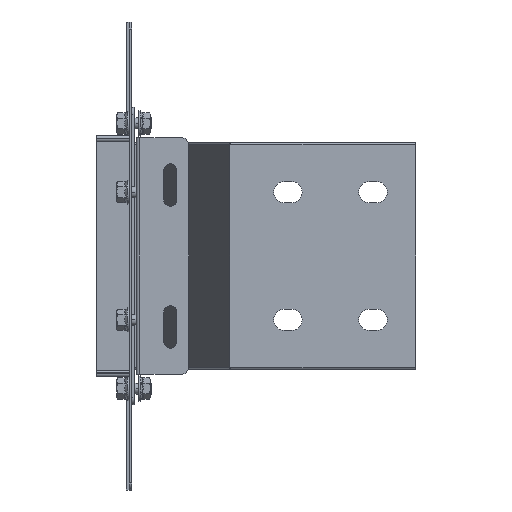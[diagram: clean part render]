
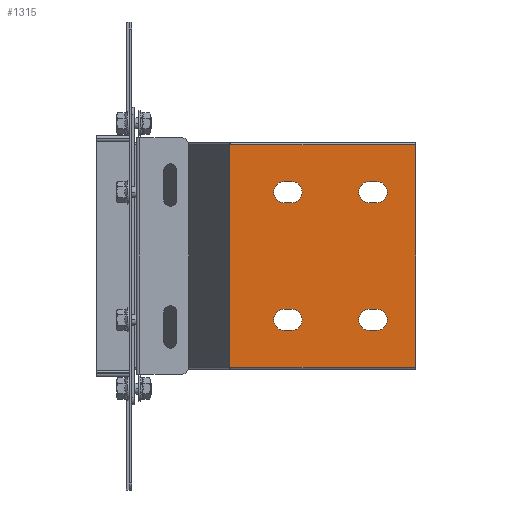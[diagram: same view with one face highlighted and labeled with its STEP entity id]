
A CAD part, front view. The second image highlights one B-rep face of the part: STEP entity #1315.
In plain terms, the highlighted planar face has unit normal (0, -1, 0).
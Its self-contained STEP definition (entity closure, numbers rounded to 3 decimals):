
#1143=AXIS2_PLACEMENT_3D('Plane Axis2P3D',#1140,#1141,#1142) ;
#1181=AXIS2_PLACEMENT_3D('Circle Axis2P3D',#1179,#1180,$) ;
#1197=AXIS2_PLACEMENT_3D('Circle Axis2P3D',#1195,#1196,$) ;
#1215=AXIS2_PLACEMENT_3D('Circle Axis2P3D',#1213,#1214,$) ;
#1231=AXIS2_PLACEMENT_3D('Circle Axis2P3D',#1229,#1230,$) ;
#1249=AXIS2_PLACEMENT_3D('Circle Axis2P3D',#1247,#1248,$) ;
#1265=AXIS2_PLACEMENT_3D('Circle Axis2P3D',#1263,#1264,$) ;
#1292=AXIS2_PLACEMENT_3D('Circle Axis2P3D',#1290,#1291,$) ;
#1306=AXIS2_PLACEMENT_3D('Circle Axis2P3D',#1304,#1305,$) ;
#1140=CARTESIAN_POINT('Axis2P3D Location',(200.,-151.625,-78.375)) ;
#1145=CARTESIAN_POINT('Line Origine',(134.458,-151.625,-78.375)) ;
#1149=CARTESIAN_POINT('Vertex',(200.,-151.625,-78.375)) ;
#1151=CARTESIAN_POINT('Vertex',(68.917,-151.625,-78.375)) ;
#1154=CARTESIAN_POINT('Line Origine',(200.,-151.625,0.)) ;
#1158=CARTESIAN_POINT('Vertex',(200.,-151.625,78.375)) ;
#1161=CARTESIAN_POINT('Line Origine',(134.458,-151.625,78.375)) ;
#1165=CARTESIAN_POINT('Vertex',(68.917,-151.625,78.375)) ;
#1168=CARTESIAN_POINT('Line Origine',(68.917,-151.625,0.)) ;
#1179=CARTESIAN_POINT('Axis2P3D Location',(112.5,-151.625,45.)) ;
#1183=CARTESIAN_POINT('Vertex',(112.5,-151.625,37.5)) ;
#1185=CARTESIAN_POINT('Vertex',(112.5,-151.625,52.5)) ;
#1188=CARTESIAN_POINT('Line Origine',(110.,-151.625,37.5)) ;
#1192=CARTESIAN_POINT('Vertex',(107.5,-151.625,37.5)) ;
#1195=CARTESIAN_POINT('Axis2P3D Location',(107.5,-151.625,45.)) ;
#1199=CARTESIAN_POINT('Vertex',(107.5,-151.625,52.5)) ;
#1202=CARTESIAN_POINT('Line Origine',(110.,-151.625,52.5)) ;
#1213=CARTESIAN_POINT('Axis2P3D Location',(172.5,-151.625,45.)) ;
#1217=CARTESIAN_POINT('Vertex',(172.5,-151.625,37.5)) ;
#1219=CARTESIAN_POINT('Vertex',(172.5,-151.625,52.5)) ;
#1222=CARTESIAN_POINT('Line Origine',(170.,-151.625,37.5)) ;
#1226=CARTESIAN_POINT('Vertex',(167.5,-151.625,37.5)) ;
#1229=CARTESIAN_POINT('Axis2P3D Location',(167.5,-151.625,45.)) ;
#1233=CARTESIAN_POINT('Vertex',(167.5,-151.625,52.5)) ;
#1236=CARTESIAN_POINT('Line Origine',(170.,-151.625,52.5)) ;
#1247=CARTESIAN_POINT('Axis2P3D Location',(107.5,-151.625,-45.)) ;
#1251=CARTESIAN_POINT('Vertex',(107.5,-151.625,-37.5)) ;
#1253=CARTESIAN_POINT('Vertex',(107.5,-151.625,-52.5)) ;
#1256=CARTESIAN_POINT('Line Origine',(110.,-151.625,-37.5)) ;
#1260=CARTESIAN_POINT('Vertex',(112.5,-151.625,-37.5)) ;
#1263=CARTESIAN_POINT('Axis2P3D Location',(112.5,-151.625,-45.)) ;
#1267=CARTESIAN_POINT('Vertex',(112.5,-151.625,-52.5)) ;
#1270=CARTESIAN_POINT('Line Origine',(110.,-151.625,-52.5)) ;
#1281=CARTESIAN_POINT('Line Origine',(170.,-151.625,-37.5)) ;
#1285=CARTESIAN_POINT('Vertex',(172.5,-151.625,-37.5)) ;
#1287=CARTESIAN_POINT('Vertex',(167.5,-151.625,-37.5)) ;
#1290=CARTESIAN_POINT('Axis2P3D Location',(172.5,-151.625,-45.)) ;
#1294=CARTESIAN_POINT('Vertex',(172.5,-151.625,-52.5)) ;
#1297=CARTESIAN_POINT('Line Origine',(170.,-151.625,-52.5)) ;
#1301=CARTESIAN_POINT('Vertex',(167.5,-151.625,-52.5)) ;
#1304=CARTESIAN_POINT('Axis2P3D Location',(167.5,-151.625,-45.)) ;
#1141=DIRECTION('Axis2P3D Direction',(0.,-1.,0.)) ;
#1142=DIRECTION('Axis2P3D XDirection',(0.,0.,1.)) ;
#1146=DIRECTION('Vector Direction',(-1.,0.,0.)) ;
#1155=DIRECTION('Vector Direction',(0.,0.,1.)) ;
#1162=DIRECTION('Vector Direction',(-1.,0.,0.)) ;
#1169=DIRECTION('Vector Direction',(0.,0.,1.)) ;
#1180=DIRECTION('Axis2P3D Direction',(0.,-1.,0.)) ;
#1189=DIRECTION('Vector Direction',(-1.,0.,0.)) ;
#1196=DIRECTION('Axis2P3D Direction',(0.,-1.,0.)) ;
#1203=DIRECTION('Vector Direction',(1.,0.,0.)) ;
#1214=DIRECTION('Axis2P3D Direction',(0.,-1.,0.)) ;
#1223=DIRECTION('Vector Direction',(1.,0.,0.)) ;
#1230=DIRECTION('Axis2P3D Direction',(0.,-1.,0.)) ;
#1237=DIRECTION('Vector Direction',(-1.,0.,0.)) ;
#1248=DIRECTION('Axis2P3D Direction',(0.,-1.,0.)) ;
#1257=DIRECTION('Vector Direction',(-1.,0.,0.)) ;
#1264=DIRECTION('Axis2P3D Direction',(0.,-1.,0.)) ;
#1271=DIRECTION('Vector Direction',(1.,0.,0.)) ;
#1282=DIRECTION('Vector Direction',(1.,0.,0.)) ;
#1291=DIRECTION('Axis2P3D Direction',(0.,-1.,0.)) ;
#1298=DIRECTION('Vector Direction',(-1.,0.,0.)) ;
#1305=DIRECTION('Axis2P3D Direction',(0.,-1.,0.)) ;
#1147=VECTOR('Line Direction',#1146,1.) ;
#1156=VECTOR('Line Direction',#1155,1.) ;
#1163=VECTOR('Line Direction',#1162,1.) ;
#1170=VECTOR('Line Direction',#1169,1.) ;
#1190=VECTOR('Line Direction',#1189,1.) ;
#1204=VECTOR('Line Direction',#1203,1.) ;
#1224=VECTOR('Line Direction',#1223,1.) ;
#1238=VECTOR('Line Direction',#1237,1.) ;
#1258=VECTOR('Line Direction',#1257,1.) ;
#1272=VECTOR('Line Direction',#1271,1.) ;
#1283=VECTOR('Line Direction',#1282,1.) ;
#1299=VECTOR('Line Direction',#1298,1.) ;
#1174=ORIENTED_EDGE('',*,*,#1153,.F.) ;
#1175=ORIENTED_EDGE('',*,*,#1160,.F.) ;
#1176=ORIENTED_EDGE('',*,*,#1167,.T.) ;
#1177=ORIENTED_EDGE('',*,*,#1172,.F.) ;
#1208=ORIENTED_EDGE('',*,*,#1187,.F.) ;
#1209=ORIENTED_EDGE('',*,*,#1194,.F.) ;
#1210=ORIENTED_EDGE('',*,*,#1201,.F.) ;
#1211=ORIENTED_EDGE('',*,*,#1206,.F.) ;
#1242=ORIENTED_EDGE('',*,*,#1221,.F.) ;
#1243=ORIENTED_EDGE('',*,*,#1228,.F.) ;
#1244=ORIENTED_EDGE('',*,*,#1235,.F.) ;
#1245=ORIENTED_EDGE('',*,*,#1240,.F.) ;
#1276=ORIENTED_EDGE('',*,*,#1255,.F.) ;
#1277=ORIENTED_EDGE('',*,*,#1262,.F.) ;
#1278=ORIENTED_EDGE('',*,*,#1269,.F.) ;
#1279=ORIENTED_EDGE('',*,*,#1274,.F.) ;
#1310=ORIENTED_EDGE('',*,*,#1289,.F.) ;
#1311=ORIENTED_EDGE('',*,*,#1296,.F.) ;
#1312=ORIENTED_EDGE('',*,*,#1303,.F.) ;
#1313=ORIENTED_EDGE('',*,*,#1308,.F.) ;
#1212=FACE_BOUND('',#1207,.T.) ;
#1246=FACE_BOUND('',#1241,.T.) ;
#1280=FACE_BOUND('',#1275,.T.) ;
#1314=FACE_BOUND('',#1309,.T.) ;
#1315=ADVANCED_FACE('N',(#1178,#1212,#1246,#1280,#1314),#1144,.T.) ;
#1182=CIRCLE('generated circle',#1181,7.5) ;
#1198=CIRCLE('generated circle',#1197,7.5) ;
#1216=CIRCLE('generated circle',#1215,7.5) ;
#1232=CIRCLE('generated circle',#1231,7.5) ;
#1250=CIRCLE('generated circle',#1249,7.5) ;
#1266=CIRCLE('generated circle',#1265,7.5) ;
#1293=CIRCLE('generated circle',#1292,7.5) ;
#1307=CIRCLE('generated circle',#1306,7.5) ;
#1153=EDGE_CURVE('',#1150,#1152,#1148,.T.) ;
#1160=EDGE_CURVE('',#1159,#1150,#1157,.F.) ;
#1167=EDGE_CURVE('',#1159,#1166,#1164,.T.) ;
#1172=EDGE_CURVE('',#1152,#1166,#1171,.T.) ;
#1187=EDGE_CURVE('',#1184,#1186,#1182,.T.) ;
#1194=EDGE_CURVE('',#1193,#1184,#1191,.F.) ;
#1201=EDGE_CURVE('',#1200,#1193,#1198,.T.) ;
#1206=EDGE_CURVE('',#1186,#1200,#1205,.F.) ;
#1221=EDGE_CURVE('',#1218,#1220,#1216,.T.) ;
#1228=EDGE_CURVE('',#1227,#1218,#1225,.T.) ;
#1235=EDGE_CURVE('',#1234,#1227,#1232,.T.) ;
#1240=EDGE_CURVE('',#1220,#1234,#1239,.T.) ;
#1255=EDGE_CURVE('',#1252,#1254,#1250,.T.) ;
#1262=EDGE_CURVE('',#1261,#1252,#1259,.T.) ;
#1269=EDGE_CURVE('',#1268,#1261,#1266,.T.) ;
#1274=EDGE_CURVE('',#1254,#1268,#1273,.T.) ;
#1289=EDGE_CURVE('',#1286,#1288,#1284,.F.) ;
#1296=EDGE_CURVE('',#1295,#1286,#1293,.T.) ;
#1303=EDGE_CURVE('',#1302,#1295,#1300,.F.) ;
#1308=EDGE_CURVE('',#1288,#1302,#1307,.T.) ;
#1173=EDGE_LOOP('',(#1174,#1175,#1176,#1177)) ;
#1207=EDGE_LOOP('',(#1208,#1209,#1210,#1211)) ;
#1241=EDGE_LOOP('',(#1242,#1243,#1244,#1245)) ;
#1275=EDGE_LOOP('',(#1276,#1277,#1278,#1279)) ;
#1309=EDGE_LOOP('',(#1310,#1311,#1312,#1313)) ;
#1178=FACE_OUTER_BOUND('',#1173,.T.) ;
#1148=LINE('Line',#1145,#1147) ;
#1157=LINE('Line',#1154,#1156) ;
#1164=LINE('Line',#1161,#1163) ;
#1171=LINE('Line',#1168,#1170) ;
#1191=LINE('Line',#1188,#1190) ;
#1205=LINE('Line',#1202,#1204) ;
#1225=LINE('Line',#1222,#1224) ;
#1239=LINE('Line',#1236,#1238) ;
#1259=LINE('Line',#1256,#1258) ;
#1273=LINE('Line',#1270,#1272) ;
#1284=LINE('Line',#1281,#1283) ;
#1300=LINE('Line',#1297,#1299) ;
#1144=PLANE('',#1143) ;
#1150=VERTEX_POINT('',#1149) ;
#1152=VERTEX_POINT('',#1151) ;
#1159=VERTEX_POINT('',#1158) ;
#1166=VERTEX_POINT('',#1165) ;
#1184=VERTEX_POINT('',#1183) ;
#1186=VERTEX_POINT('',#1185) ;
#1193=VERTEX_POINT('',#1192) ;
#1200=VERTEX_POINT('',#1199) ;
#1218=VERTEX_POINT('',#1217) ;
#1220=VERTEX_POINT('',#1219) ;
#1227=VERTEX_POINT('',#1226) ;
#1234=VERTEX_POINT('',#1233) ;
#1252=VERTEX_POINT('',#1251) ;
#1254=VERTEX_POINT('',#1253) ;
#1261=VERTEX_POINT('',#1260) ;
#1268=VERTEX_POINT('',#1267) ;
#1286=VERTEX_POINT('',#1285) ;
#1288=VERTEX_POINT('',#1287) ;
#1295=VERTEX_POINT('',#1294) ;
#1302=VERTEX_POINT('',#1301) ;
